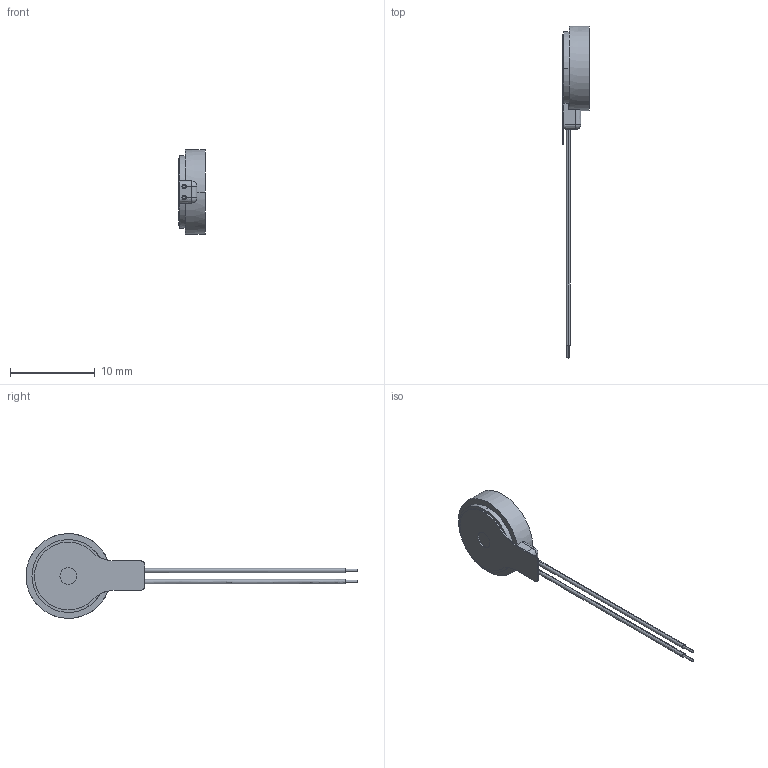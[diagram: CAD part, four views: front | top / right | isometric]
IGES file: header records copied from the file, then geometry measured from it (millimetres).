
Start section:  PTC IGES file: c1030b015f.igs
Global section: file name: c1030b015f.igs; native system: Pro/ENGINEER by Parametric Technology Corporation; preprocessor: 2007370; author: Administrator; organization: Unknown; date: 20100906.083146; units: millimetre
Bounding box: 3.15 x 39.2 x 10 mm (x, y, z)
Surface area: 380.1 mm2 (no closed solid volume)
Topology: 0 solids, 0 shells, 46 faces, 228 edges, 228 vertices
Faces by surface type: revolution 27, bspline 19
